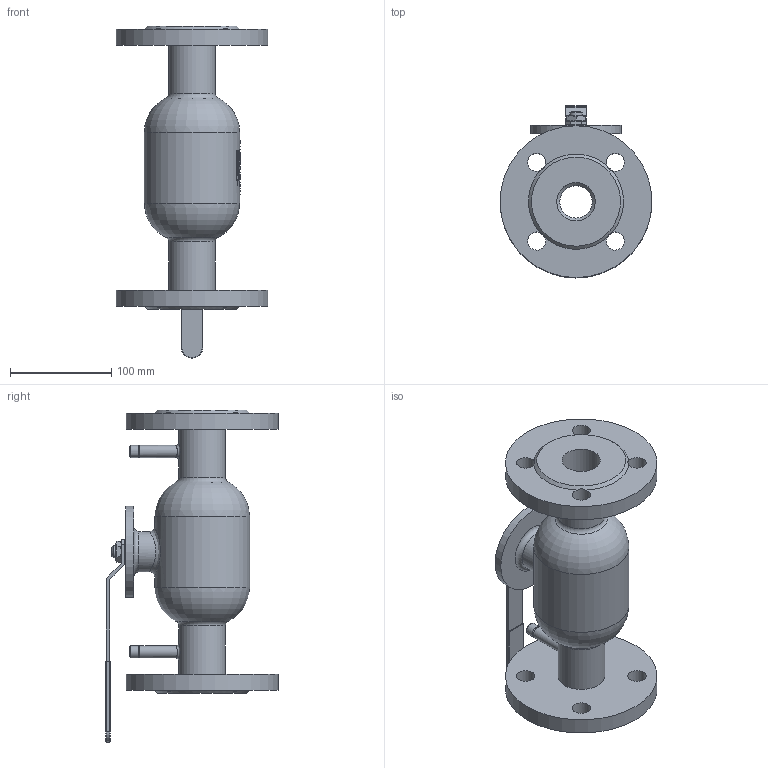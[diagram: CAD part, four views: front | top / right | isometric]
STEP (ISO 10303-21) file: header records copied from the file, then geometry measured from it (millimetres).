
FILE_DESCRIPTION(('STEP AP214'), '1');
FILE_NAME('BVR3232P-SP-F-H Êðàí øàðîâîé ðåãóëèðóþùèé DN.ru Äó40 Ðó40', '', ('UNSPECIFIED'), ('UNSPECIFIED'), 'C3D Converter', 'C3D Toolkit', '');
FILE_SCHEMA(('AUTOMOTIVE_DESIGN { 1 0 10303 214 3 1 1}'));
Length unit declared in the file: millimetre
Products named in the file (1): BVR3232P-SP-F-H 
Bounding box: 150 x 170 x 328 mm (x, y, z)
Volume: 1397223.8 mm3; surface area: 204183.1 mm2
Topology: 1 solids, 1 shells, 702 faces, 1821 edges, 1207 vertices
Faces by surface type: plane 343, bspline 169, cylinder 88, extrusion 82, cone 11, torus 9
Full cylindrical faces by diameter (mm): 2.5 x2, 5 x2, 12 x6, 18 x8, 32 x1, 38 x2, 40 x1, 46 x2, 86 x1, 90 x1, 94 x1, 150 x2
Entity records: 73546 total; most frequent: CARTESIAN_POINT 56806, ORIENTED_EDGE 3544, DIRECTION 2378, EDGE_CURVE 1772, VERTEX_POINT 1207, VECTOR 936, EDGE_LOOP 855, LINE 854
